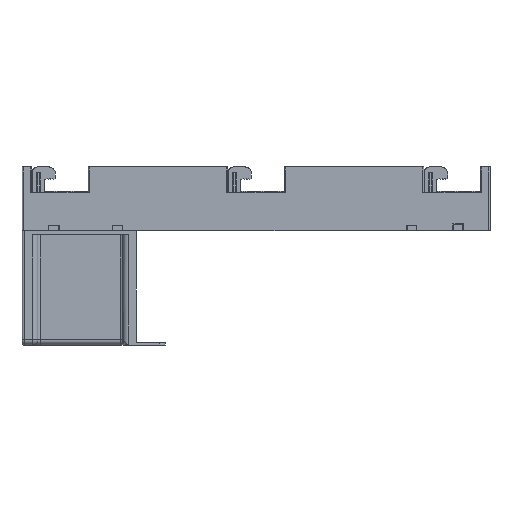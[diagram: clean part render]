
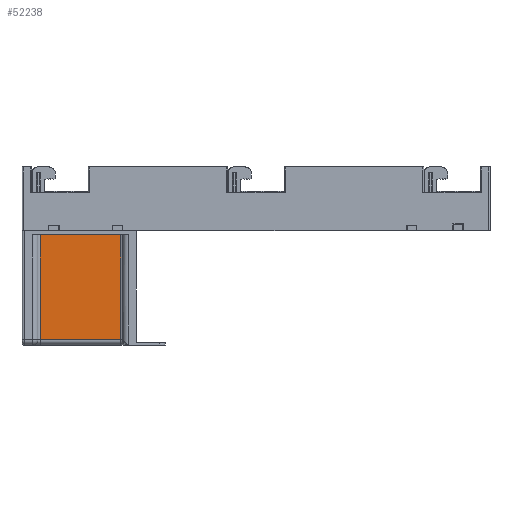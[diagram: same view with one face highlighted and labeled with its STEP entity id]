
A CAD part, left-side view. The second image highlights one B-rep face of the part: STEP entity #52238.
In plain terms, the highlighted planar face has unit normal (-1, 0, 0).
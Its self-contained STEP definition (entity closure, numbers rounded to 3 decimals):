
#1207 = CARTESIAN_POINT ( 'NONE',  ( -129.621, 119.355, 308.5 ) ) ;
#2676 = CARTESIAN_POINT ( 'NONE',  ( -129.621, 195.355, 308.5 ) ) ;
#3644 = DIRECTION ( 'NONE',  ( 0., 0., 1. ) ) ;
#7705 = EDGE_CURVE ( 'NONE', #48595, #37695, #70962, .T. ) ;
#8053 = EDGE_LOOP ( 'NONE', ( #68682, #55940, #10228, #65408 ) ) ;
#10228 = ORIENTED_EDGE ( 'NONE', *, *, #16045, .F. ) ;
#13482 = DIRECTION ( 'NONE',  ( 0., -1., 0. ) ) ;
#15127 = DIRECTION ( 'NONE',  ( 0., 1., 0. ) ) ;
#16045 = EDGE_CURVE ( 'NONE', #86998, #64778, #50296, .T. ) ;
#16393 = CARTESIAN_POINT ( 'NONE',  ( -129.621, 119.355, 407.5 ) ) ;
#16855 = CARTESIAN_POINT ( 'NONE',  ( -129.621, 119.355, 407.5 ) ) ;
#25251 = CARTESIAN_POINT ( 'NONE',  ( -129.621, 195.355, 407.5 ) ) ;
#26415 = VECTOR ( 'NONE', #13482, 1000. ) ;
#33582 = LINE ( 'NONE', #42250, #36812 ) ;
#33933 = AXIS2_PLACEMENT_3D ( 'NONE', #37992, #73479, #52393 ) ;
#35882 = EDGE_CURVE ( 'NONE', #64778, #37695, #67345, .T. ) ;
#36812 = VECTOR ( 'NONE', #15127, 1000. ) ;
#37695 = VERTEX_POINT ( 'NONE', #16855 ) ;
#37992 = CARTESIAN_POINT ( 'NONE',  ( -129.621, 142.355, 407.5 ) ) ;
#42250 = CARTESIAN_POINT ( 'NONE',  ( -129.621, 142.355, 308.5 ) ) ;
#44081 = DIRECTION ( 'NONE',  ( 0., 0., 1. ) ) ;
#48595 = VERTEX_POINT ( 'NONE', #1207 ) ;
#49154 = VECTOR ( 'NONE', #3644, 1000. ) ;
#50296 = LINE ( 'NONE', #77439, #49154 ) ;
#52238 = ADVANCED_FACE ( 'NONE', ( #87576 ), #79820, .F. ) ;
#52393 = DIRECTION ( 'NONE',  ( 0., -1., 0. ) ) ;
#54710 = CARTESIAN_POINT ( 'NONE',  ( -129.621, 142.355, 407.5 ) ) ;
#55940 = ORIENTED_EDGE ( 'NONE', *, *, #35882, .F. ) ;
#64778 = VERTEX_POINT ( 'NONE', #25251 ) ;
#65408 = ORIENTED_EDGE ( 'NONE', *, *, #86386, .F. ) ;
#67345 = LINE ( 'NONE', #54710, #26415 ) ;
#68682 = ORIENTED_EDGE ( 'NONE', *, *, #7705, .T. ) ;
#70962 = LINE ( 'NONE', #16393, #73129 ) ;
#73129 = VECTOR ( 'NONE', #44081, 1000. ) ;
#73479 = DIRECTION ( 'NONE',  ( 1., 0., 0. ) ) ;
#77439 = CARTESIAN_POINT ( 'NONE',  ( -129.621, 195.355, 407.5 ) ) ;
#79820 = PLANE ( 'NONE',  #33933 ) ;
#86386 = EDGE_CURVE ( 'NONE', #48595, #86998, #33582, .T. ) ;
#86998 = VERTEX_POINT ( 'NONE', #2676 ) ;
#87576 = FACE_OUTER_BOUND ( 'NONE', #8053, .T. ) ;
